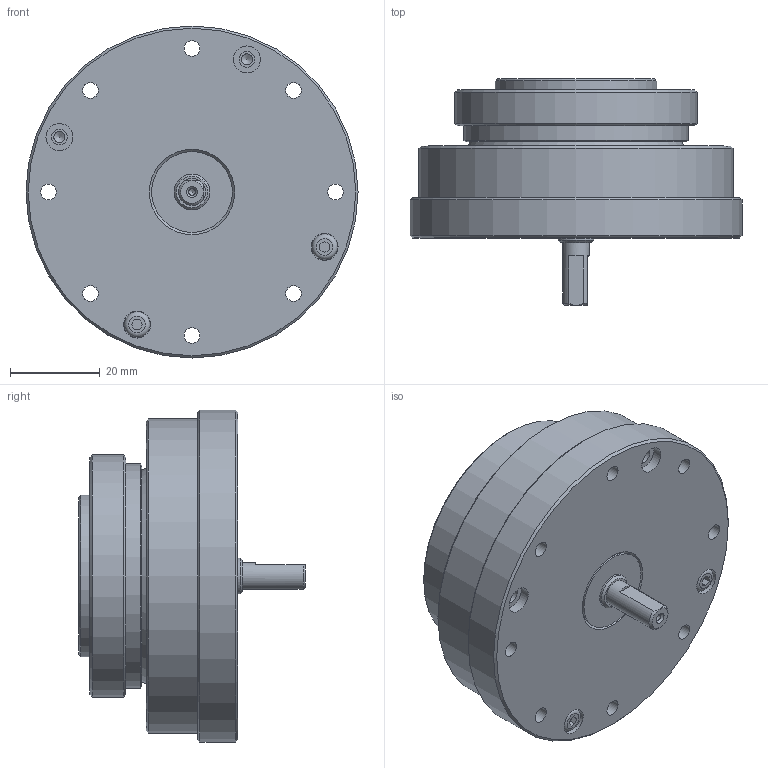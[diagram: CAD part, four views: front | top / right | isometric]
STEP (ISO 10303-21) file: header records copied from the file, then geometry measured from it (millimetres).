
FILE_DESCRIPTION(/* description */ (''),/* implementation_level */ '2;1');
FILE_NAME(/* name */ 'LHT-14-U-4',/* time_stamp */ '2017-09-16T15:33:08+08:00',/* author */ (''),/* organization */ (''),/* preprocessor_version */ 'ST-DEVELOPER v9',/* originating_system */ 'UGS - NX 4.0',/* authorisation */ '');
FILE_SCHEMA (('AUTOMOTIVE_DESIGN { 1 0 10303 214 1 1 1 1 }'));
Length unit declared in the file: millimetre
Products named in the file (1): Admi85A9d2pl
Bounding box: 74 x 50.5 x 74 mm (x, y, z)
Volume: 98107.8 mm3; surface area: 71173.3 mm2
Topology: 72 solids, 73 shells, 580 faces, 1296 edges, 861 vertices
Faces by surface type: cylinder 234, plane 233, cone 56, torus 33, sphere 22, revolution 2
Full cylindrical faces by diameter (mm): 1.5 x2, 2.1 x2, 2.459 x16, 2.7 x1, 3 x28, 3.5 x56, 5 x2, 5.5 x3, 5.7 x2, 6 x9, 7.35 x1, 7.5 x1, 7.6 x2, 8 x4, 10.1 x1, 10.6 x1, 11 x3, 13 x2, 16 x2, 17 x1, 18 x2, 19 x3, 20 x2, 23.4 x1, 25 x1, 25.04 x1, 25.4 x1, 27 x1, 28 x1, 29.68 x1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
Entity records: 14491 total; most frequent: DIRECTION 2654, CARTESIAN_POINT 2246, ORIENTED_EDGE 1722, AXIS2_PLACEMENT_3D 1216, EDGE_LOOP 1014, EDGE_CURVE 861, VERTEX_POINT 760, FACE_BOUND 720
